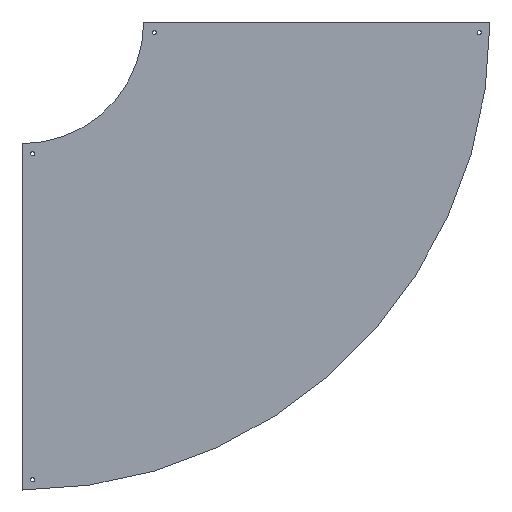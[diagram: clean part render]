
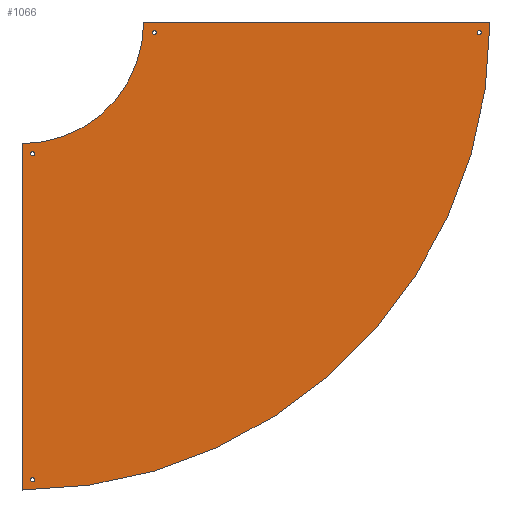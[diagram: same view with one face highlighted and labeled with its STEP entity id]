
A CAD part, top view. The second image highlights one B-rep face of the part: STEP entity #1066.
In plain terms, the highlighted planar face has unit normal (0, 0, 1).
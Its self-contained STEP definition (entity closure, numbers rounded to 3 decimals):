
#49=FACE_BOUND('',#205,.T.);
#50=FACE_BOUND('',#206,.T.);
#51=FACE_BOUND('',#207,.T.);
#52=FACE_BOUND('',#208,.T.);
#63=CIRCLE('',#1156,298.5);
#64=CIRCLE('',#1157,1151.5);
#65=CIRCLE('',#1158,5.);
#66=CIRCLE('',#1159,5.);
#67=CIRCLE('',#1160,5.);
#68=CIRCLE('',#1161,5.);
#69=CIRCLE('',#1162,5.);
#70=CIRCLE('',#1163,5.);
#71=CIRCLE('',#1164,5.);
#72=CIRCLE('',#1165,5.);
#134=FACE_OUTER_BOUND('',#204,.T.);
#204=EDGE_LOOP('',(#826,#827,#828,#829,#830,#831,#832,#833));
#205=EDGE_LOOP('',(#834,#835));
#206=EDGE_LOOP('',(#836,#837));
#207=EDGE_LOOP('',(#838,#839));
#208=EDGE_LOOP('',(#840,#841));
#297=LINE('',#1670,#405);
#298=LINE('',#1673,#406);
#306=LINE('',#1708,#414);
#307=LINE('',#1713,#415);
#308=LINE('',#1715,#416);
#309=LINE('',#1717,#417);
#405=VECTOR('',#1333,304.8);
#406=VECTOR('',#1336,304.8);
#414=VECTOR('',#1368,304.8);
#415=VECTOR('',#1373,304.8);
#416=VECTOR('',#1374,304.8);
#417=VECTOR('',#1375,304.8);
#494=VERTEX_POINT('',#1663);
#497=VERTEX_POINT('',#1668);
#498=VERTEX_POINT('',#1672);
#513=VERTEX_POINT('',#1706);
#514=VERTEX_POINT('',#1710);
#515=VERTEX_POINT('',#1712);
#516=VERTEX_POINT('',#1714);
#517=VERTEX_POINT('',#1716);
#518=VERTEX_POINT('',#1719);
#519=VERTEX_POINT('',#1720);
#520=VERTEX_POINT('',#1723);
#521=VERTEX_POINT('',#1724);
#522=VERTEX_POINT('',#1727);
#523=VERTEX_POINT('',#1728);
#524=VERTEX_POINT('',#1731);
#525=VERTEX_POINT('',#1732);
#609=EDGE_CURVE('',#497,#494,#297,.T.);
#610=EDGE_CURVE('',#494,#498,#298,.T.);
#628=EDGE_CURVE('',#513,#497,#306,.T.);
#629=EDGE_CURVE('',#513,#514,#63,.T.);
#630=EDGE_CURVE('',#514,#515,#307,.T.);
#631=EDGE_CURVE('',#515,#516,#308,.T.);
#632=EDGE_CURVE('',#516,#517,#309,.T.);
#633=EDGE_CURVE('',#517,#498,#64,.T.);
#634=EDGE_CURVE('',#518,#519,#65,.T.);
#635=EDGE_CURVE('',#519,#518,#66,.T.);
#636=EDGE_CURVE('',#520,#521,#67,.T.);
#637=EDGE_CURVE('',#521,#520,#68,.T.);
#638=EDGE_CURVE('',#522,#523,#69,.T.);
#639=EDGE_CURVE('',#523,#522,#70,.T.);
#640=EDGE_CURVE('',#524,#525,#71,.T.);
#641=EDGE_CURVE('',#525,#524,#72,.T.);
#826=ORIENTED_EDGE('',*,*,#609,.F.);
#827=ORIENTED_EDGE('',*,*,#628,.F.);
#828=ORIENTED_EDGE('',*,*,#629,.T.);
#829=ORIENTED_EDGE('',*,*,#630,.T.);
#830=ORIENTED_EDGE('',*,*,#631,.T.);
#831=ORIENTED_EDGE('',*,*,#632,.T.);
#832=ORIENTED_EDGE('',*,*,#633,.T.);
#833=ORIENTED_EDGE('',*,*,#610,.F.);
#834=ORIENTED_EDGE('',*,*,#634,.T.);
#835=ORIENTED_EDGE('',*,*,#635,.T.);
#836=ORIENTED_EDGE('',*,*,#636,.T.);
#837=ORIENTED_EDGE('',*,*,#637,.T.);
#838=ORIENTED_EDGE('',*,*,#638,.T.);
#839=ORIENTED_EDGE('',*,*,#639,.T.);
#840=ORIENTED_EDGE('',*,*,#640,.T.);
#841=ORIENTED_EDGE('',*,*,#641,.T.);
#1018=PLANE('',#1155);
#1066=ADVANCED_FACE('',(#134,#49,#50,#51,#52),#1018,.T.);
#1155=AXIS2_PLACEMENT_3D('',#1709,#1369,#1370);
#1156=AXIS2_PLACEMENT_3D('',#1711,#1371,#1372);
#1157=AXIS2_PLACEMENT_3D('',#1718,#1376,#1377);
#1158=AXIS2_PLACEMENT_3D('',#1721,#1378,#1379);
#1159=AXIS2_PLACEMENT_3D('',#1722,#1380,#1381);
#1160=AXIS2_PLACEMENT_3D('',#1725,#1382,#1383);
#1161=AXIS2_PLACEMENT_3D('',#1726,#1384,#1385);
#1162=AXIS2_PLACEMENT_3D('',#1729,#1386,#1387);
#1163=AXIS2_PLACEMENT_3D('',#1730,#1388,#1389);
#1164=AXIS2_PLACEMENT_3D('',#1733,#1390,#1391);
#1165=AXIS2_PLACEMENT_3D('',#1734,#1392,#1393);
#1333=DIRECTION('',(1.,0.,0.));
#1336=DIRECTION('',(0.,-1.,0.));
#1368=DIRECTION('',(0.,1.,0.));
#1369=DIRECTION('center_axis',(0.,0.,1.));
#1370=DIRECTION('ref_axis',(0.,-1.,0.));
#1371=DIRECTION('center_axis',(0.,0.,-1.));
#1372=DIRECTION('ref_axis',(1.,0.,0.));
#1373=DIRECTION('',(-1.,0.,0.));
#1374=DIRECTION('',(0.,-1.,0.));
#1375=DIRECTION('',(1.,0.,0.));
#1376=DIRECTION('center_axis',(0.,0.,1.));
#1377=DIRECTION('ref_axis',(1.,0.,0.));
#1378=DIRECTION('center_axis',(0.,0.,-1.));
#1379=DIRECTION('ref_axis',(1.,0.,0.));
#1380=DIRECTION('center_axis',(0.,0.,-1.));
#1381=DIRECTION('ref_axis',(1.,0.,0.));
#1382=DIRECTION('center_axis',(0.,0.,-1.));
#1383=DIRECTION('ref_axis',(1.,0.,0.));
#1384=DIRECTION('center_axis',(0.,0.,-1.));
#1385=DIRECTION('ref_axis',(1.,0.,0.));
#1386=DIRECTION('center_axis',(0.,0.,-1.));
#1387=DIRECTION('ref_axis',(1.,0.,0.));
#1388=DIRECTION('center_axis',(0.,0.,-1.));
#1389=DIRECTION('ref_axis',(1.,0.,0.));
#1390=DIRECTION('center_axis',(0.,0.,-1.));
#1391=DIRECTION('ref_axis',(1.,0.,0.));
#1392=DIRECTION('center_axis',(0.,0.,-1.));
#1393=DIRECTION('ref_axis',(1.,0.,0.));
#1663=CARTESIAN_POINT('',(426.5,726.,1.5));
#1668=CARTESIAN_POINT('',(-426.5,726.,1.5));
#1670=CARTESIAN_POINT('',(-426.5,726.,1.5));
#1672=CARTESIAN_POINT('',(426.5,725.,1.5));
#1673=CARTESIAN_POINT('',(426.5,726.,1.5));
#1706=CARTESIAN_POINT('',(-426.5,725.,1.5));
#1708=CARTESIAN_POINT('',(-426.5,726.,1.5));
#1709=CARTESIAN_POINT('Origin',(-426.5,726.,1.5));
#1710=CARTESIAN_POINT('',(-725.,426.5,1.5));
#1711=CARTESIAN_POINT('Origin',(-725.,725.,1.5));
#1712=CARTESIAN_POINT('',(-726.,426.5,1.5));
#1713=CARTESIAN_POINT('',(-725.,426.5,1.5));
#1714=CARTESIAN_POINT('',(-726.,-426.5,1.5));
#1715=CARTESIAN_POINT('',(-726.,-426.5,1.5));
#1716=CARTESIAN_POINT('',(-725.,-426.5,1.5));
#1717=CARTESIAN_POINT('',(-725.,-426.5,1.5));
#1718=CARTESIAN_POINT('Origin',(-725.,725.,1.5));
#1719=CARTESIAN_POINT('',(-695.,401.5,1.5));
#1720=CARTESIAN_POINT('',(-705.,401.5,1.5));
#1721=CARTESIAN_POINT('Origin',(-700.,401.5,1.5));
#1722=CARTESIAN_POINT('Origin',(-700.,401.5,1.5));
#1723=CARTESIAN_POINT('',(-695.,-401.5,1.5));
#1724=CARTESIAN_POINT('',(-705.,-401.5,1.5));
#1725=CARTESIAN_POINT('Origin',(-700.,-401.5,1.5));
#1726=CARTESIAN_POINT('Origin',(-700.,-401.5,1.5));
#1727=CARTESIAN_POINT('',(-395.,700.,1.5));
#1728=CARTESIAN_POINT('',(-405.,700.,1.5));
#1729=CARTESIAN_POINT('Origin',(-400.,700.,1.5));
#1730=CARTESIAN_POINT('Origin',(-400.,700.,1.5));
#1731=CARTESIAN_POINT('',(405.,700.,1.5));
#1732=CARTESIAN_POINT('',(395.,700.,1.5));
#1733=CARTESIAN_POINT('Origin',(400.,700.,1.5));
#1734=CARTESIAN_POINT('Origin',(400.,700.,1.5));
